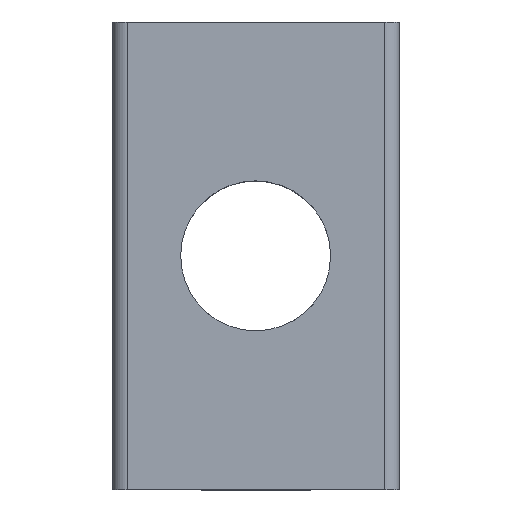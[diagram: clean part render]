
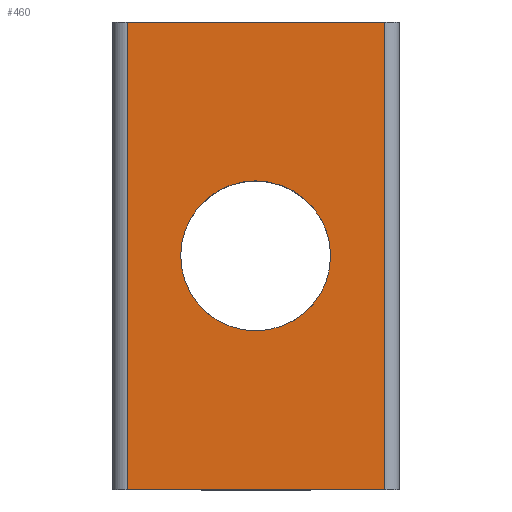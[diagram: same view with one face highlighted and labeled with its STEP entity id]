
A CAD part, top view. The second image highlights one B-rep face of the part: STEP entity #460.
In plain terms, the highlighted planar face has unit normal (0, 0, 1).
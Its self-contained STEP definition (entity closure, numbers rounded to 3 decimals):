
#4 = CIRCLE ( 'NONE', #529, 2.5 ) ;
#11 = CARTESIAN_POINT ( 'NONE',  ( -4.288, 7.8, 0. ) ) ;
#13 = EDGE_CURVE ( 'NONE', #321, #492, #104, .T. ) ;
#21 = DIRECTION ( 'NONE',  ( 0., 0., 1. ) ) ;
#24 = EDGE_CURVE ( 'NONE', #520, #282, #4, .T. ) ;
#27 = VECTOR ( 'NONE', #209, 1000. ) ;
#29 = CARTESIAN_POINT ( 'NONE',  ( -4.288, -7.8, 0. ) ) ;
#31 = DIRECTION ( 'NONE',  ( 0., 0., -1. ) ) ;
#32 = EDGE_CURVE ( 'NONE', #492, #180, #213, .T. ) ;
#37 = EDGE_LOOP ( 'NONE', ( #358, #163, #431, #79 ) ) ;
#41 = EDGE_CURVE ( 'NONE', #321, #389, #550, .T. ) ;
#43 = CARTESIAN_POINT ( 'NONE',  ( -4.288, 7.8, 0. ) ) ;
#57 = DIRECTION ( 'NONE',  ( 0., 0., 1. ) ) ;
#79 = ORIENTED_EDGE ( 'NONE', *, *, #13, .T. ) ;
#104 = LINE ( 'NONE', #139, #325 ) ;
#114 = CIRCLE ( 'NONE', #373, 2.5 ) ;
#139 = CARTESIAN_POINT ( 'NONE',  ( 4.288, -7.8, 0. ) ) ;
#140 = EDGE_CURVE ( 'NONE', #389, #180, #144, .T. ) ;
#142 = CARTESIAN_POINT ( 'NONE',  ( -4.288, -7.8, 0. ) ) ;
#144 = LINE ( 'NONE', #254, #27 ) ;
#151 = FACE_BOUND ( 'NONE', #560, .T. ) ;
#153 = ORIENTED_EDGE ( 'NONE', *, *, #365, .F. ) ;
#163 = ORIENTED_EDGE ( 'NONE', *, *, #140, .F. ) ;
#180 = VERTEX_POINT ( 'NONE', #43 ) ;
#209 = DIRECTION ( 'NONE',  ( 0., 1., 0. ) ) ;
#213 = LINE ( 'NONE', #11, #430 ) ;
#222 = AXIS2_PLACEMENT_3D ( 'NONE', #29, #31, #339 ) ;
#231 = CARTESIAN_POINT ( 'NONE',  ( 4.288, -7.8, 0. ) ) ;
#250 = PLANE ( 'NONE',  #222 ) ;
#254 = CARTESIAN_POINT ( 'NONE',  ( -4.288, -7.8, 0. ) ) ;
#268 = FACE_OUTER_BOUND ( 'NONE', #37, .T. ) ;
#280 = ORIENTED_EDGE ( 'NONE', *, *, #24, .F. ) ;
#282 = VERTEX_POINT ( 'NONE', #343 ) ;
#284 = CARTESIAN_POINT ( 'NONE',  ( -0.012, 0., 0. ) ) ;
#313 = DIRECTION ( 'NONE',  ( 0., 1., 0. ) ) ;
#316 = CARTESIAN_POINT ( 'NONE',  ( -0.012, 0., 0. ) ) ;
#321 = VERTEX_POINT ( 'NONE', #231 ) ;
#324 = DIRECTION ( 'NONE',  ( 1., 0., 0. ) ) ;
#325 = VECTOR ( 'NONE', #313, 1000. ) ;
#339 = DIRECTION ( 'NONE',  ( -1., 0., 0. ) ) ;
#343 = CARTESIAN_POINT ( 'NONE',  ( -2.512, 0., 0. ) ) ;
#358 = ORIENTED_EDGE ( 'NONE', *, *, #32, .T. ) ;
#359 = DIRECTION ( 'NONE',  ( -1., 0., 0. ) ) ;
#365 = EDGE_CURVE ( 'NONE', #282, #520, #114, .T. ) ;
#366 = DIRECTION ( 'NONE',  ( 1., 0., 0. ) ) ;
#373 = AXIS2_PLACEMENT_3D ( 'NONE', #284, #21, #324 ) ;
#374 = CARTESIAN_POINT ( 'NONE',  ( -4.288, -7.8, 0. ) ) ;
#389 = VERTEX_POINT ( 'NONE', #374 ) ;
#411 = VECTOR ( 'NONE', #553, 1000. ) ;
#430 = VECTOR ( 'NONE', #359, 1000. ) ;
#431 = ORIENTED_EDGE ( 'NONE', *, *, #41, .F. ) ;
#460 = ADVANCED_FACE ( 'NONE', ( #151, #268 ), #250, .F. ) ;
#478 = CARTESIAN_POINT ( 'NONE',  ( 2.488, 0., 0. ) ) ;
#492 = VERTEX_POINT ( 'NONE', #575 ) ;
#520 = VERTEX_POINT ( 'NONE', #478 ) ;
#529 = AXIS2_PLACEMENT_3D ( 'NONE', #316, #57, #366 ) ;
#550 = LINE ( 'NONE', #142, #411 ) ;
#553 = DIRECTION ( 'NONE',  ( -1., 0., 0. ) ) ;
#560 = EDGE_LOOP ( 'NONE', ( #280, #153 ) ) ;
#575 = CARTESIAN_POINT ( 'NONE',  ( 4.288, 7.8, 0. ) ) ;
